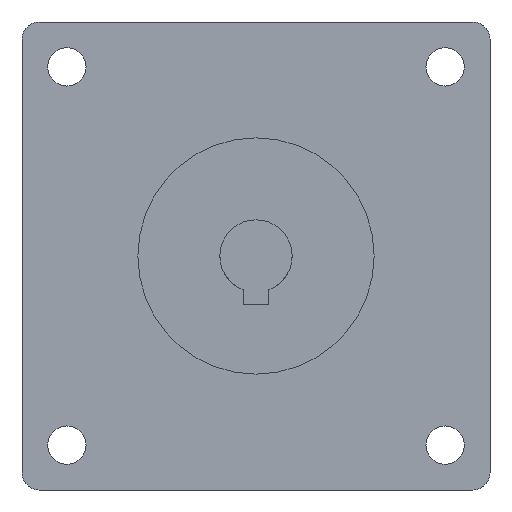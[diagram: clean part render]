
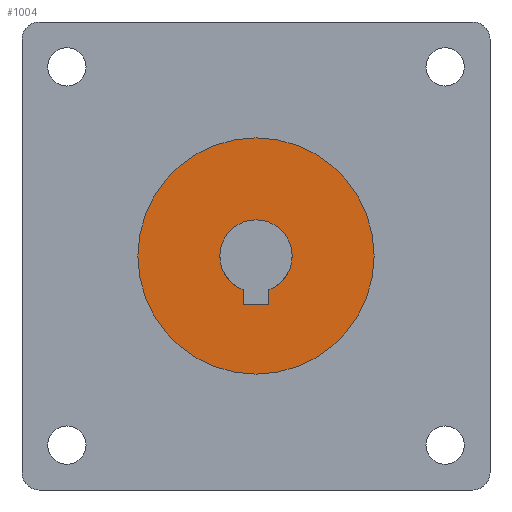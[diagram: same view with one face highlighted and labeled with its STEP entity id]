
A CAD part, front view. The second image highlights one B-rep face of the part: STEP entity #1004.
In plain terms, the highlighted planar face has unit normal (0, -1, 0).
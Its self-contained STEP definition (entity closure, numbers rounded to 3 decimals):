
#24 = VERTEX_POINT ( 'NONE', #172 ) ;
#105 = VERTEX_POINT ( 'NONE', #1090 ) ;
#172 = CARTESIAN_POINT ( 'NONE',  ( -6.934, -1.52, 36.334 ) ) ;
#175 = ORIENTED_EDGE ( 'NONE', *, *, #589, .F. ) ;
#233 = CARTESIAN_POINT ( 'NONE',  ( -6.934, -1.52, 55.594 ) ) ;
#237 = AXIS2_PLACEMENT_3D ( 'NONE', #1716, #819, #1878 ) ;
#246 = EDGE_CURVE ( 'NONE', #105, #628, #1935, .T. ) ;
#248 = AXIS2_PLACEMENT_3D ( 'NONE', #2003, #855, #922 ) ;
#353 = DIRECTION ( 'NONE',  ( 0., -1., 0. ) ) ;
#474 = CIRCLE ( 'NONE', #942, 8.5 ) ;
#505 = ORIENTED_EDGE ( 'NONE', *, *, #246, .F. ) ;
#548 = DIRECTION ( 'NONE',  ( 0., -1., 0. ) ) ;
#551 = AXIS2_PLACEMENT_3D ( 'NONE', #592, #1656, #754 ) ;
#561 = VERTEX_POINT ( 'NONE', #1162 ) ;
#564 = ORIENTED_EDGE ( 'NONE', *, *, #879, .F. ) ;
#566 = ORIENTED_EDGE ( 'NONE', *, *, #1983, .F. ) ;
#589 = EDGE_CURVE ( 'NONE', #24, #561, #474, .T. ) ;
#592 = CARTESIAN_POINT ( 'NONE',  ( -6.934, -1.52, 27.834 ) ) ;
#619 = FACE_BOUND ( 'NONE', #1148, .T. ) ;
#628 = VERTEX_POINT ( 'NONE', #233 ) ;
#670 = FACE_OUTER_BOUND ( 'NONE', #1968, .T. ) ;
#754 = DIRECTION ( 'NONE',  ( 0., 0., 1. ) ) ;
#819 = DIRECTION ( 'NONE',  ( 0., 1., 0. ) ) ;
#855 = DIRECTION ( 'NONE',  ( 0., 1., 0. ) ) ;
#872 = CIRCLE ( 'NONE', #1514, 8.5 ) ;
#879 = EDGE_CURVE ( 'NONE', #561, #24, #872, .T. ) ;
#922 = DIRECTION ( 'NONE',  ( 0., 0., 1. ) ) ;
#942 = AXIS2_PLACEMENT_3D ( 'NONE', #1471, #548, #1615 ) ;
#1004 = ADVANCED_FACE ( 'NONE', ( #670, #619 ), #1426, .F. ) ;
#1090 = CARTESIAN_POINT ( 'NONE',  ( -6.934, -1.52, 0.074 ) ) ;
#1148 = EDGE_LOOP ( 'NONE', ( #175, #564 ) ) ;
#1162 = CARTESIAN_POINT ( 'NONE',  ( -6.934, -1.52, 19.334 ) ) ;
#1297 = CARTESIAN_POINT ( 'NONE',  ( -6.934, -1.52, 27.834 ) ) ;
#1426 = PLANE ( 'NONE',  #237 ) ;
#1443 = DIRECTION ( 'NONE',  ( 0., 0., 1. ) ) ;
#1471 = CARTESIAN_POINT ( 'NONE',  ( -6.934, -1.52, 27.834 ) ) ;
#1514 = AXIS2_PLACEMENT_3D ( 'NONE', #1297, #353, #1443 ) ;
#1615 = DIRECTION ( 'NONE',  ( 0., 0., 1. ) ) ;
#1656 = DIRECTION ( 'NONE',  ( 0., 1., 0. ) ) ;
#1716 = CARTESIAN_POINT ( 'NONE',  ( -6.934, -1.52, 27.834 ) ) ;
#1850 = CIRCLE ( 'NONE', #551, 27.76 ) ;
#1878 = DIRECTION ( 'NONE',  ( 0., 0., 1. ) ) ;
#1935 = CIRCLE ( 'NONE', #248, 27.76 ) ;
#1968 = EDGE_LOOP ( 'NONE', ( #566, #505 ) ) ;
#1983 = EDGE_CURVE ( 'NONE', #628, #105, #1850, .T. ) ;
#2003 = CARTESIAN_POINT ( 'NONE',  ( -6.934, -1.52, 27.834 ) ) ;
